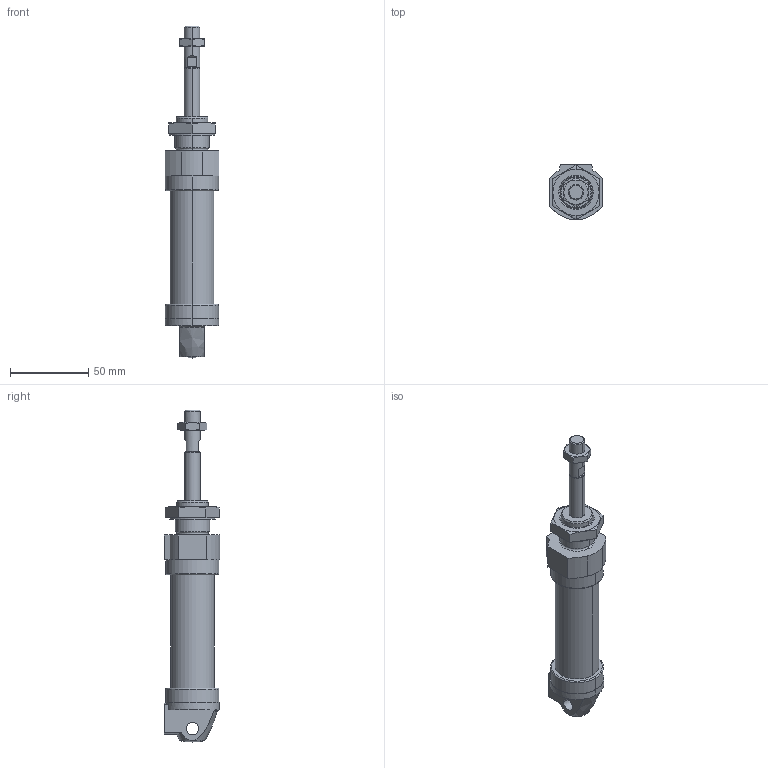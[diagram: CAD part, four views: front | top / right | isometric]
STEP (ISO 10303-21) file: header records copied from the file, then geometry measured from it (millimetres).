
FILE_DESCRIPTION((''),'2;1');
FILE_NAME('1326225020_ASM','2017-09-14T',('hug2hc'),(''),'CREO PARAMETRIC BY PTC INC, 2016260','CREO PARAMETRIC BY PTC INC, 2016260','');
FILE_SCHEMA(('CONFIG_CONTROL_DESIGN'));
Length unit declared in the file: millimetre
Products named in the file (5): 1326225020-A; 1326225020-C; 1326225020-B; 3590302000; 1326225020_ASM
Assembly tree (4 placements, depth 2):
  1326225020_ASM
    1326225020-A
    1326225020-C
    1326225020-B
    3590302000
Bounding box: 34.5 x 35.45 x 212.5 mm (x, y, z)
Volume: 93838.9 mm3; surface area: 37292.6 mm2
Topology: 4 solids, 4 shells, 125 faces, 281 edges, 174 vertices
Faces by surface type: plane 47, cylinder 41, cone 24, torus 9, bspline 2, sphere 2
Entity records: 3892 total; most frequent: CARTESIAN_POINT 939, DIRECTION 631, ORIENTED_EDGE 558, EDGE_CURVE 279, AXIS2_PLACEMENT_3D 259, VERTEX_POINT 174, EDGE_LOOP 143, CIRCLE 127
